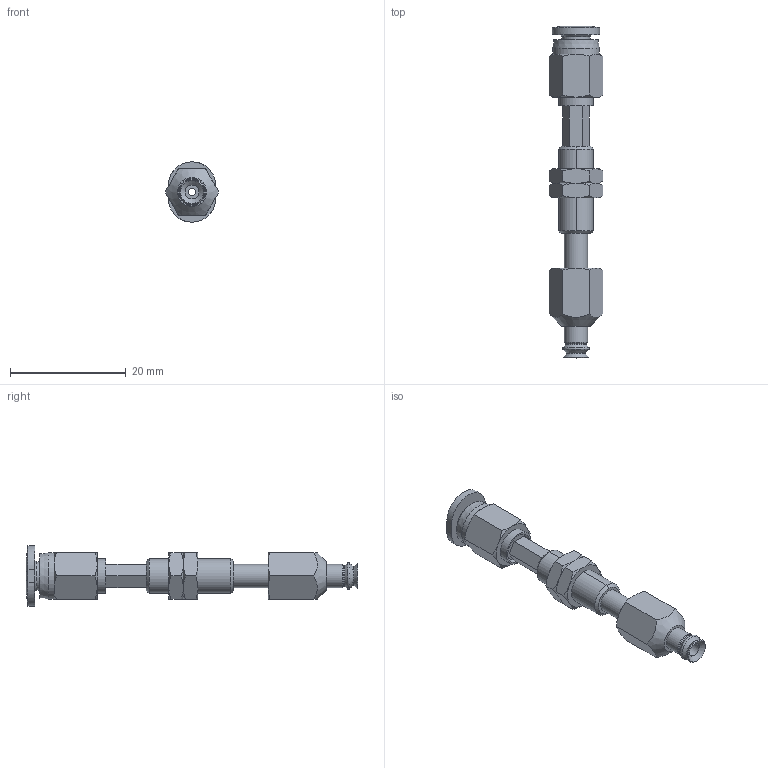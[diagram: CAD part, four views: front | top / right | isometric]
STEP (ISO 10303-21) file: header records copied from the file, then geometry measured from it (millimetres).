
FILE_DESCRIPTION(('STEP AP203'),'1');
FILE_NAME('-O.stp','2025-08-27T07:04:15',(' '),(' '),'Spatial InterOp 3D',' ',' ');
FILE_SCHEMA(('CONFIG_CONTROL_DESIGN'));
Length unit declared in the file: millimetre
Products named in the file (7): BNABPJTS-4-6-※-O; ADAPTER; NAPFTS-2A-6-MBODY; _Nut_1_5A_6_s; _NAPFTS_1_5A_6_FBODY; BPJG-4-※; PC-C_04-M3
Assembly tree (7 placements, depth 2):
  BNABPJTS-4-6-※-O
    ADAPTER
    NAPFTS-2A-6-MBODY
    _Nut_1_5A_6_s  x2
    _NAPFTS_1_5A_6_FBODY
    BPJG-4-※
    PC-C_04-M3
Bounding box: 9.24 x 57.27 x 10.4 mm (x, y, z)
Volume: 1270.8 mm3; surface area: 2642.3 mm2
Topology: 6 solids, 8 shells, 174 faces, 366 edges, 218 vertices
Faces by surface type: cone 67, plane 62, cylinder 27, torus 11, bspline 4, revolution 3
Full cylindrical faces by diameter (mm): 1.2 x2, 2 x2, 2.4 x1, 2.459 x1, 2.5 x2, 3 x3, 4 x2, 4.9 x1, 6 x1, 6.1 x1, 8 x1
Entity records: 4194 total; most frequent: CARTESIAN_POINT 1004, DIRECTION 605, ORIENTED_EDGE 510, AXIS2_PLACEMENT_3D 267, EDGE_CURVE 256, EDGE_LOOP 212, VERTEX_POINT 174, CIRCLE 119
